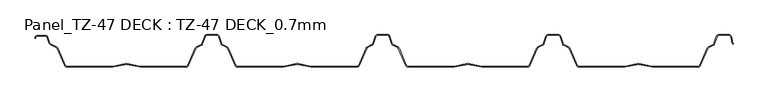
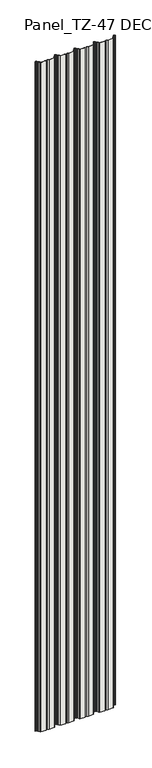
"""IFC4 building model written with IfcOpenShell, lengths in millimetres: roof geometry, Panel_TZ-47 DECK : TZ-47 DECK_0.7mm."""

from ifc_helpers import new_model, si_unit, point, frame_2d, origin, origin_with_axes, place, context, project, spatial, polyline, circle_curve, trimmed, segment, composite_curve, outline, extrude, source, transform, mapped, element, save


def panel_tz_47_deck_tz_47_deck_0_7mm_e5fd2b05(model_context):
    return source(origin(), model_context, "Body", "SweptSolid", [
        extrude(outline(composite_curve([segment(trimmed(circle_curve(frame_2d((462.6918032, -44.0)), 2.5), [point((462.6918032, -46.5))], [point((464.9851088, -44.9953639))], True, "CARTESIAN"), True, "CONTINUOUS"), segment(polyline([(464.9851088, -44.9953639), (475.884379, -19.8835868)]), True, "CONTINUOUS"), segment(trimmed(circle_curve(frame_2d((478.6363458, -21.0780235)), 3.0), [point((475.884379, -19.8835868))], [point((477.2893244, -18.397439))], False, "CARTESIAN"), True, "CONTINUOUS"), segment(polyline([(477.2893244, -18.397439), (484.4894233, -14.779315)]), True, "CONTINUOUS"), segment(trimmed(circle_curve(frame_2d((483.5914091, -12.9922586)), 2.0), [point((484.4894233, -14.779315))], [point((485.4900407, -13.6209063))], True, "CARTESIAN"), True, "CONTINUOUS"), segment(polyline([(485.4900407, -13.6209063), (489.2053906, -2.3998665)]), True, "CONTINUOUS"), segment(trimmed(circle_curve(frame_2d((492.5279959, -3.5)), 3.5), [point((489.2053906, -2.3998665))], [point((492.5279959, 0.0))], False, "CARTESIAN"), True, "CONTINUOUS"), segment(polyline([(492.5279959, 0.0), (507.4720041, 0.0)]), True, "CONTINUOUS"), segment(trimmed(circle_curve(frame_2d((507.4720041, -3.5)), 3.5), [point((507.4720041, 0.0))], [point((510.7946094, -2.3998665))], False, "CARTESIAN"), True, "CONTINUOUS"), segment(polyline([(510.7946094, -2.3998665), (512.5145908, -7.5945265)]), True, "CONTINUOUS"), segment(trimmed(circle_curve(frame_2d((510.6159592, -8.2231742)), 2.0), [point((512.5145908, -7.5945265))], [point((512.4038697, -9.1194865))], False, "CARTESIAN"), True, "CONTINUOUS"), segment(trimmed(circle_curve(frame_2d((513.3061161, -9.5655913)), 1.0065078), [point((512.4038697, -9.1194865))], [point((512.3506223, -9.8819608))], True, "CARTESIAN"), True, "CONTINUOUS"), segment(polyline([(512.3506223, -9.8819608), (513.5268409, -13.4343573), (512.7673883, -13.6858163), (511.5911697, -10.1334198)]), True, "CONTINUOUS"), segment(trimmed(circle_curve(frame_2d((513.3061161, -9.5655913)), 1.8065078), [point((511.5911697, -10.1334198))], [point((511.6879803, -8.7624057))], False, "CARTESIAN"), True, "CONTINUOUS"), segment(trimmed(circle_curve(frame_2d((510.6159592, -8.2231742)), 1.2), [point((511.6879803, -8.7624057))], [point((511.7551381, -7.8459856))], True, "CARTESIAN"), True, "CONTINUOUS"), segment(polyline([(511.7551381, -7.8459856), (510.0351568, -2.6513256)]), True, "CONTINUOUS"), segment(trimmed(circle_curve(frame_2d((507.4720041, -3.5)), 2.7), [point((510.0351568, -2.6513256))], [point((507.4720041, -0.8))], True, "CARTESIAN"), True, "CONTINUOUS"), segment(polyline([(507.4720041, -0.8), (492.5279959, -0.8)]), True, "CONTINUOUS"), segment(trimmed(circle_curve(frame_2d((492.5279959, -3.5)), 2.7), [point((492.5279959, -0.8))], [point((489.9648432, -2.6513256))], True, "CARTESIAN"), True, "CONTINUOUS"), segment(polyline([(489.9648432, -2.6513256), (486.2494933, -13.8723654)]), True, "CONTINUOUS"), segment(trimmed(circle_curve(frame_2d((483.5914091, -12.9922586)), 2.8), [point((486.2494933, -13.8723654))], [point((484.848629, -15.4941375))], False, "CARTESIAN"), True, "CONTINUOUS"), segment(polyline([(484.848629, -15.4941375), (477.6485301, -19.1122615)]), True, "CONTINUOUS"), segment(trimmed(circle_curve(frame_2d((478.6363458, -21.0780235)), 2.2), [point((477.6485301, -19.1122615))], [point((476.6182368, -20.2021032))], True, "CARTESIAN"), True, "CONTINUOUS"), segment(polyline([(476.6182368, -20.2021032), (465.7189666, -45.3138804)]), True, "CONTINUOUS"), segment(trimmed(circle_curve(frame_2d((462.6918032, -44.0)), 3.3), [point((465.7189666, -45.3138804))], [point((462.6918032, -47.3))], False, "CARTESIAN"), True, "CONTINUOUS"), segment(polyline([(462.6918032, -47.3), (394.9702941, -47.3), (375.4314555, -43.3922323)]), True, "CONTINUOUS"), segment(trimmed(circle_curve(frame_2d((375.0, -45.5495098)), 2.2), [point((375.4314555, -43.3922323))], [point((374.5685445, -43.3922323))], True, "CARTESIAN"), True, "CONTINUOUS"), segment(polyline([(374.5685445, -43.3922323), (355.0297059, -47.3), (287.3081968, -47.3)]), True, "CONTINUOUS"), segment(trimmed(circle_curve(frame_2d((287.3081968, -44.0)), 3.3), [point((287.3081968, -47.3))], [point((284.2810334, -45.3138804))], False, "CARTESIAN"), True, "CONTINUOUS"), segment(polyline([(284.2810334, -45.3138804), (273.3817632, -20.2021032)]), True, "CONTINUOUS"), segment(trimmed(circle_curve(frame_2d((271.3636542, -21.0780235)), 2.2), [point((273.3817632, -20.2021032))], [point((272.3514699, -19.1122615))], True, "CARTESIAN"), True, "CONTINUOUS"), segment(polyline([(272.3514699, -19.1122615), (265.151371, -15.4941375)]), True, "CONTINUOUS"), segment(trimmed(circle_curve(frame_2d((266.4085909, -12.9922586)), 2.8), [point((265.151371, -15.4941375))], [point((263.7505067, -13.8723654))], False, "CARTESIAN"), True, "CONTINUOUS"), segment(polyline([(263.7505067, -13.8723654), (260.0351568, -2.6513256)]), True, "CONTINUOUS"), segment(trimmed(circle_curve(frame_2d((257.4720041, -3.5)), 2.7), [point((260.0351568, -2.6513256))], [point((257.4720041, -0.8))], True, "CARTESIAN"), True, "CONTINUOUS"), segment(polyline([(257.4720041, -0.8), (242.5279959, -0.8)]), True, "CONTINUOUS"), segment(trimmed(circle_curve(frame_2d((242.5279959, -3.5)), 2.7), [point((242.5279959, -0.8))], [point((239.9648432, -2.6513256))], True, "CARTESIAN"), True, "CONTINUOUS"), segment(polyline([(239.9648432, -2.6513256), (236.2494933, -13.8723654)]), True, "CONTINUOUS"), segment(trimmed(circle_curve(frame_2d((233.5914091, -12.9922586)), 2.8), [point((236.2494933, -13.8723654))], [point((234.848629, -15.4941375))], False, "CARTESIAN"), True, "CONTINUOUS"), segment(polyline([(234.848629, -15.4941375), (227.6485301, -19.1122615)]), True, "CONTINUOUS"), segment(trimmed(circle_curve(frame_2d((228.6363458, -21.0780235)), 2.2), [point((227.6485301, -19.1122615))], [point((226.6182368, -20.2021032))], True, "CARTESIAN"), True, "CONTINUOUS"), segment(polyline([(226.6182368, -20.2021032), (215.7189666, -45.3138804)]), True, "CONTINUOUS"), segment(trimmed(circle_curve(frame_2d((212.6918032, -44.0)), 3.3), [point((215.7189666, -45.3138804))], [point((212.6918032, -47.3))], False, "CARTESIAN"), True, "CONTINUOUS"), segment(polyline([(212.6918032, -47.3), (144.9702941, -47.3), (125.4314555, -43.3922323)]), True, "CONTINUOUS"), segment(trimmed(circle_curve(frame_2d((125.0, -45.5495098)), 2.2), [point((125.4314555, -43.3922323))], [point((124.5685445, -43.3922323))], True, "CARTESIAN"), True, "CONTINUOUS"), segment(polyline([(124.5685445, -43.3922323), (105.0297059, -47.3), (37.3081968, -47.3)]), True, "CONTINUOUS"), segment(trimmed(circle_curve(frame_2d((37.3081968, -44.0)), 3.3), [point((37.3081968, -47.3))], [point((34.2810334, -45.3138804))], False, "CARTESIAN"), True, "CONTINUOUS"), segment(polyline([(34.2810334, -45.3138804), (23.3817632, -20.2021032)]), True, "CONTINUOUS"), segment(trimmed(circle_curve(frame_2d((21.3636542, -21.0780235)), 2.2), [point((23.3817632, -20.2021032))], [point((22.3514699, -19.1122615))], True, "CARTESIAN"), True, "CONTINUOUS"), segment(polyline([(22.3514699, -19.1122615), (15.151371, -15.4941375)]), True, "CONTINUOUS"), segment(trimmed(circle_curve(frame_2d((16.4085909, -12.9922586)), 2.8), [point((15.151371, -15.4941375))], [point((13.7505067, -13.8723654))], False, "CARTESIAN"), True, "CONTINUOUS"), segment(polyline([(13.7505067, -13.8723654), (10.0351568, -2.6513256)]), True, "CONTINUOUS"), segment(trimmed(circle_curve(frame_2d((7.4720041, -3.5)), 2.7), [point((10.0351568, -2.6513256))], [point((7.4720041, -0.8))], True, "CARTESIAN"), True, "CONTINUOUS"), segment(polyline([(7.4720041, -0.8), (-7.4720041, -0.8)]), True, "CONTINUOUS"), segment(trimmed(circle_curve(frame_2d((-7.4720041, -3.5)), 2.7), [point((-7.4720041, -0.8))], [point((-10.0351568, -2.6513256))], True, "CARTESIAN"), True, "CONTINUOUS"), segment(polyline([(-10.0351568, -2.6513256), (-13.7505067, -13.8723654)]), True, "CONTINUOUS"), segment(trimmed(circle_curve(frame_2d((-16.4085909, -12.9922586)), 2.8), [point((-13.7505067, -13.8723654))], [point((-15.151371, -15.4941375))], False, "CARTESIAN"), True, "CONTINUOUS"), segment(polyline([(-15.151371, -15.4941375), (-22.3514699, -19.1122615)]), True, "CONTINUOUS"), segment(trimmed(circle_curve(frame_2d((-21.3636542, -21.0780235)), 2.2), [point((-22.3514699, -19.1122615))], [point((-23.3817632, -20.2021032))], True, "CARTESIAN"), True, "CONTINUOUS"), segment(polyline([(-23.3817632, -20.2021032), (-34.2810334, -45.3138804)]), True, "CONTINUOUS"), segment(trimmed(circle_curve(frame_2d((-37.3081968, -44.0)), 3.3), [point((-34.2810334, -45.3138804))], [point((-37.3081968, -47.3))], False, "CARTESIAN"), True, "CONTINUOUS"), segment(polyline([(-37.3081968, -47.3), (-105.0297059, -47.3), (-124.5685445, -43.3922323)]), True, "CONTINUOUS"), segment(trimmed(circle_curve(frame_2d((-125.0, -45.5495098)), 2.2), [point((-124.5685445, -43.3922323))], [point((-125.4314555, -43.3922323))], True, "CARTESIAN"), True, "CONTINUOUS"), segment(polyline([(-125.4314555, -43.3922323), (-144.9702941, -47.3), (-212.6918032, -47.3)]), True, "CONTINUOUS"), segment(trimmed(circle_curve(frame_2d((-212.6918032, -44.0)), 3.3), [point((-212.6918032, -47.3))], [point((-215.7189666, -45.3138804))], False, "CARTESIAN"), True, "CONTINUOUS"), segment(polyline([(-215.7189666, -45.3138804), (-226.6182368, -20.2021032)]), True, "CONTINUOUS"), segment(trimmed(circle_curve(frame_2d((-228.6363458, -21.0780235)), 2.2), [point((-226.6182368, -20.2021032))], [point((-227.6485301, -19.1122615))], True, "CARTESIAN"), True, "CONTINUOUS"), segment(polyline([(-227.6485301, -19.1122615), (-234.848629, -15.4941375)]), True, "CONTINUOUS"), segment(trimmed(circle_curve(frame_2d((-233.5914091, -12.9922586)), 2.8), [point((-234.848629, -15.4941375))], [point((-236.2494933, -13.8723654))], False, "CARTESIAN"), True, "CONTINUOUS"), segment(polyline([(-236.2494933, -13.8723654), (-239.9648432, -2.6513256)]), True, "CONTINUOUS"), segment(trimmed(circle_curve(frame_2d((-242.5279959, -3.5)), 2.7), [point((-239.9648432, -2.6513256))], [point((-242.5279959, -0.8))], True, "CARTESIAN"), True, "CONTINUOUS"), segment(polyline([(-242.5279959, -0.8), (-257.4720041, -0.8)]), True, "CONTINUOUS"), segment(trimmed(circle_curve(frame_2d((-257.4720041, -3.5)), 2.7), [point((-257.4720041, -0.8))], [point((-260.0351568, -2.6513256))], True, "CARTESIAN"), True, "CONTINUOUS"), segment(polyline([(-260.0351568, -2.6513256), (-263.7505067, -13.8723654)]), True, "CONTINUOUS"), segment(trimmed(circle_curve(frame_2d((-266.4085909, -12.9922586)), 2.8), [point((-263.7505067, -13.8723654))], [point((-265.151371, -15.4941375))], False, "CARTESIAN"), True, "CONTINUOUS"), segment(polyline([(-265.151371, -15.4941375), (-272.3514699, -19.1122615)]), True, "CONTINUOUS"), segment(trimmed(circle_curve(frame_2d((-271.3636542, -21.0780235)), 2.2), [point((-272.3514699, -19.1122615))], [point((-273.3817632, -20.2021032))], True, "CARTESIAN"), True, "CONTINUOUS"), segment(polyline([(-273.3817632, -20.2021032), (-284.2810334, -45.3138804)]), True, "CONTINUOUS"), segment(trimmed(circle_curve(frame_2d((-287.3081968, -44.0)), 3.3), [point((-284.2810334, -45.3138804))], [point((-287.3081968, -47.3))], False, "CARTESIAN"), True, "CONTINUOUS"), segment(polyline([(-287.3081968, -47.3), (-355.0297059, -47.3), (-374.5685445, -43.3922323)]), True, "CONTINUOUS"), segment(trimmed(circle_curve(frame_2d((-375.0, -45.5495098)), 2.2), [point((-374.5685445, -43.3922323))], [point((-375.4314555, -43.3922323))], True, "CARTESIAN"), True, "CONTINUOUS"), segment(polyline([(-375.4314555, -43.3922323), (-394.9702941, -47.3), (-462.6918032, -47.3)]), True, "CONTINUOUS"), segment(trimmed(circle_curve(frame_2d((-462.6918032, -44.0)), 3.3), [point((-462.6918032, -47.3))], [point((-465.7189666, -45.3138804))], False, "CARTESIAN"), True, "CONTINUOUS"), segment(polyline([(-465.7189666, -45.3138804), (-476.6182368, -20.2021032)]), True, "CONTINUOUS"), segment(trimmed(circle_curve(frame_2d((-478.6363458, -21.0780235)), 2.2), [point((-476.6182368, -20.2021032))], [point((-477.6485301, -19.1122615))], True, "CARTESIAN"), True, "CONTINUOUS"), segment(polyline([(-477.6485301, -19.1122615), (-486.6480187, -14.5899257)]), True, "CONTINUOUS"), segment(trimmed(circle_curve(frame_2d((-485.3907987, -12.0880468)), 2.8), [point((-486.6480187, -14.5899257))], [point((-488.048883, -12.9681535))], False, "CARTESIAN"), True, "CONTINUOUS"), segment(polyline([(-488.048883, -12.9681535), (-490.9681847, -4.1513256)]), True, "CONTINUOUS"), segment(trimmed(circle_curve(frame_2d((-493.5313374, -5.0)), 2.7), [point((-490.9681847, -4.1513256))], [point((-493.5313374, -2.3))], True, "CARTESIAN"), True, "CONTINUOUS"), segment(polyline([(-493.5313374, -2.3), (-506.2431725, -2.3)]), True, "CONTINUOUS"), segment(trimmed(circle_curve(frame_2d((-506.2431725, -4.0)), 1.7), [point((-506.2431725, -2.3))], [point((-507.8570094, -3.4656495))], True, "CARTESIAN"), True, "CONTINUOUS"), segment(polyline([(-507.8570094, -3.4656495), (-508.4856571, -5.3642811), (-509.2451097, -5.112822), (-508.616462, -3.2141904)]), True, "CONTINUOUS"), segment(trimmed(circle_curve(frame_2d((-506.2431725, -4.0)), 2.5), [point((-508.616462, -3.2141904))], [point((-506.2431725, -1.5))], False, "CARTESIAN"), True, "CONTINUOUS"), segment(polyline([(-506.2431725, -1.5), (-493.5313374, -1.5)]), True, "CONTINUOUS"), segment(trimmed(circle_curve(frame_2d((-493.5313374, -5.0)), 3.5), [point((-493.5313374, -1.5))], [point((-490.2087321, -3.8998665))], False, "CARTESIAN"), True, "CONTINUOUS"), segment(polyline([(-490.2087321, -3.8998665), (-487.2894304, -12.7166945)]), True, "CONTINUOUS"), segment(trimmed(circle_curve(frame_2d((-485.3907987, -12.0880468)), 2.0), [point((-487.2894304, -12.7166945))], [point((-486.288813, -13.8751031))], True, "CARTESIAN"), True, "CONTINUOUS"), segment(polyline([(-486.288813, -13.8751031), (-477.2893244, -18.397439)]), True, "CONTINUOUS"), segment(trimmed(circle_curve(frame_2d((-478.6363458, -21.0780235)), 3.0), [point((-477.2893244, -18.397439))], [point((-475.884379, -19.8835868))], False, "CARTESIAN"), True, "CONTINUOUS"), segment(polyline([(-475.884379, -19.8835868), (-464.9851088, -44.9953639)]), True, "CONTINUOUS"), segment(trimmed(circle_curve(frame_2d((-462.6918032, -44.0)), 2.5), [point((-464.9851088, -44.9953639))], [point((-462.6918032, -46.5))], True, "CARTESIAN"), True, "CONTINUOUS"), segment(polyline([(-462.6918032, -46.5), (-395.0495098, -46.5), (-375.5883484, -42.6077677)]), True, "CONTINUOUS"), segment(trimmed(circle_curve(frame_2d((-375.0, -45.5495098)), 3.0), [point((-375.5883484, -42.6077677))], [point((-374.4116516, -42.6077677))], False, "CARTESIAN"), True, "CONTINUOUS"), segment(polyline([(-374.4116516, -42.6077677), (-354.9504902, -46.5), (-287.3081968, -46.5)]), True, "CONTINUOUS"), segment(trimmed(circle_curve(frame_2d((-287.3081968, -44.0)), 2.5), [point((-287.3081968, -46.5))], [point((-285.0148912, -44.9953639))], True, "CARTESIAN"), True, "CONTINUOUS"), segment(polyline([(-285.0148912, -44.9953639), (-274.115621, -19.8835868)]), True, "CONTINUOUS"), segment(trimmed(circle_curve(frame_2d((-271.3636542, -21.0780235)), 3.0), [point((-274.115621, -19.8835868))], [point((-272.7106756, -18.397439))], False, "CARTESIAN"), True, "CONTINUOUS"), segment(polyline([(-272.7106756, -18.397439), (-265.5105767, -14.779315)]), True, "CONTINUOUS"), segment(trimmed(circle_curve(frame_2d((-266.4085909, -12.9922586)), 2.0), [point((-265.5105767, -14.779315))], [point((-264.5099593, -13.6209063))], True, "CARTESIAN"), True, "CONTINUOUS"), segment(polyline([(-264.5099593, -13.6209063), (-260.7946094, -2.3998665)]), True, "CONTINUOUS"), segment(trimmed(circle_curve(frame_2d((-257.4720041, -3.5)), 3.5), [point((-260.7946094, -2.3998665))], [point((-257.4720041, 0.0))], False, "CARTESIAN"), True, "CONTINUOUS"), segment(polyline([(-257.4720041, 0.0), (-242.5279959, 0.0)]), True, "CONTINUOUS"), segment(trimmed(circle_curve(frame_2d((-242.5279959, -3.5)), 3.5), [point((-242.5279959, 0.0))], [point((-239.2053906, -2.3998665))], False, "CARTESIAN"), True, "CONTINUOUS"), segment(polyline([(-239.2053906, -2.3998665), (-235.4900407, -13.6209063)]), True, "CONTINUOUS"), segment(trimmed(circle_curve(frame_2d((-233.5914091, -12.9922586)), 2.0), [point((-235.4900407, -13.6209063))], [point((-234.4894233, -14.779315))], True, "CARTESIAN"), True, "CONTINUOUS"), segment(polyline([(-234.4894233, -14.779315), (-227.2893244, -18.397439)]), True, "CONTINUOUS"), segment(trimmed(circle_curve(frame_2d((-228.6363458, -21.0780235)), 3.0), [point((-227.2893244, -18.397439))], [point((-225.884379, -19.8835868))], False, "CARTESIAN"), True, "CONTINUOUS"), segment(polyline([(-225.884379, -19.8835868), (-214.9851088, -44.9953639)]), True, "CONTINUOUS"), segment(trimmed(circle_curve(frame_2d((-212.6918032, -44.0)), 2.5), [point((-214.9851088, -44.9953639))], [point((-212.6918032, -46.5))], True, "CARTESIAN"), True, "CONTINUOUS"), segment(polyline([(-212.6918032, -46.5), (-145.0495098, -46.5), (-125.5883484, -42.6077677)]), True, "CONTINUOUS"), segment(trimmed(circle_curve(frame_2d((-125.0, -45.5495098)), 3.0), [point((-125.5883484, -42.6077677))], [point((-124.4116516, -42.6077677))], False, "CARTESIAN"), True, "CONTINUOUS"), segment(polyline([(-124.4116516, -42.6077677), (-104.9504902, -46.5), (-37.3081968, -46.5)]), True, "CONTINUOUS"), segment(trimmed(circle_curve(frame_2d((-37.3081968, -44.0)), 2.5), [point((-37.3081968, -46.5))], [point((-35.0148912, -44.9953639))], True, "CARTESIAN"), True, "CONTINUOUS"), segment(polyline([(-35.0148912, -44.9953639), (-24.115621, -19.8835868)]), True, "CONTINUOUS"), segment(trimmed(circle_curve(frame_2d((-21.3636542, -21.0780235)), 3.0), [point((-24.115621, -19.8835868))], [point((-22.7106756, -18.397439))], False, "CARTESIAN"), True, "CONTINUOUS"), segment(polyline([(-22.7106756, -18.397439), (-15.5105767, -14.779315)]), True, "CONTINUOUS"), segment(trimmed(circle_curve(frame_2d((-16.4085909, -12.9922586)), 2.0), [point((-15.5105767, -14.779315))], [point((-14.5099593, -13.6209063))], True, "CARTESIAN"), True, "CONTINUOUS"), segment(polyline([(-14.5099593, -13.6209063), (-10.7946094, -2.3998665)]), True, "CONTINUOUS"), segment(trimmed(circle_curve(frame_2d((-7.4720041, -3.5)), 3.5), [point((-10.7946094, -2.3998665))], [point((-7.4720041, 0.0))], False, "CARTESIAN"), True, "CONTINUOUS"), segment(polyline([(-7.4720041, 0.0), (7.4720041, 0.0)]), True, "CONTINUOUS"), segment(trimmed(circle_curve(frame_2d((7.4720041, -3.5)), 3.5), [point((7.4720041, 0.0))], [point((10.7946094, -2.3998665))], False, "CARTESIAN"), True, "CONTINUOUS"), segment(polyline([(10.7946094, -2.3998665), (14.5099593, -13.6209063)]), True, "CONTINUOUS"), segment(trimmed(circle_curve(frame_2d((16.4085909, -12.9922586)), 2.0), [point((14.5099593, -13.6209063))], [point((15.5105767, -14.779315))], True, "CARTESIAN"), True, "CONTINUOUS"), segment(polyline([(15.5105767, -14.779315), (22.7106756, -18.397439)]), True, "CONTINUOUS"), segment(trimmed(circle_curve(frame_2d((21.3636542, -21.0780235)), 3.0), [point((22.7106756, -18.397439))], [point((24.115621, -19.8835868))], False, "CARTESIAN"), True, "CONTINUOUS"), segment(polyline([(24.115621, -19.8835868), (35.0148912, -44.9953639)]), True, "CONTINUOUS"), segment(trimmed(circle_curve(frame_2d((37.3081968, -44.0)), 2.5), [point((35.0148912, -44.9953639))], [point((37.3081968, -46.5))], True, "CARTESIAN"), True, "CONTINUOUS"), segment(polyline([(37.3081968, -46.5), (104.9504902, -46.5), (124.4116516, -42.6077677)]), True, "CONTINUOUS"), segment(trimmed(circle_curve(frame_2d((125.0, -45.5495098)), 3.0), [point((124.4116516, -42.6077677))], [point((125.5883484, -42.6077677))], False, "CARTESIAN"), True, "CONTINUOUS"), segment(polyline([(125.5883484, -42.6077677), (145.0495098, -46.5), (212.6918032, -46.5)]), True, "CONTINUOUS"), segment(trimmed(circle_curve(frame_2d((212.6918032, -44.0)), 2.5), [point((212.6918032, -46.5))], [point((214.9851088, -44.9953639))], True, "CARTESIAN"), True, "CONTINUOUS"), segment(polyline([(214.9851088, -44.9953639), (225.884379, -19.8835868)]), True, "CONTINUOUS"), segment(trimmed(circle_curve(frame_2d((228.6363458, -21.0780235)), 3.0), [point((225.884379, -19.8835868))], [point((227.2893244, -18.397439))], False, "CARTESIAN"), True, "CONTINUOUS"), segment(polyline([(227.2893244, -18.397439), (234.4894233, -14.779315)]), True, "CONTINUOUS"), segment(trimmed(circle_curve(frame_2d((233.5914091, -12.9922586)), 2.0), [point((234.4894233, -14.779315))], [point((235.4900407, -13.6209063))], True, "CARTESIAN"), True, "CONTINUOUS"), segment(polyline([(235.4900407, -13.6209063), (239.2053906, -2.3998665)]), True, "CONTINUOUS"), segment(trimmed(circle_curve(frame_2d((242.5279959, -3.5)), 3.5), [point((239.2053906, -2.3998665))], [point((242.5279959, 0.0))], False, "CARTESIAN"), True, "CONTINUOUS"), segment(polyline([(242.5279959, 0.0), (257.4720041, 0.0)]), True, "CONTINUOUS"), segment(trimmed(circle_curve(frame_2d((257.4720041, -3.5)), 3.5), [point((257.4720041, 0.0))], [point((260.7946094, -2.3998665))], False, "CARTESIAN"), True, "CONTINUOUS"), segment(polyline([(260.7946094, -2.3998665), (264.5099593, -13.6209063)]), True, "CONTINUOUS"), segment(trimmed(circle_curve(frame_2d((266.4085909, -12.9922586)), 2.0), [point((264.5099593, -13.6209063))], [point((265.5105767, -14.779315))], True, "CARTESIAN"), True, "CONTINUOUS"), segment(polyline([(265.5105767, -14.779315), (272.7106756, -18.397439)]), True, "CONTINUOUS"), segment(trimmed(circle_curve(frame_2d((271.3636542, -21.0780235)), 3.0), [point((272.7106756, -18.397439))], [point((274.115621, -19.8835868))], False, "CARTESIAN"), True, "CONTINUOUS"), segment(polyline([(274.115621, -19.8835868), (285.0148912, -44.9953639)]), True, "CONTINUOUS"), segment(trimmed(circle_curve(frame_2d((287.3081968, -44.0)), 2.5), [point((285.0148912, -44.9953639))], [point((287.3081968, -46.5))], True, "CARTESIAN"), True, "CONTINUOUS"), segment(polyline([(287.3081968, -46.5), (354.9504902, -46.5), (374.4116516, -42.6077677)]), True, "CONTINUOUS"), segment(trimmed(circle_curve(frame_2d((375.0, -45.5495098)), 3.0), [point((374.4116516, -42.6077677))], [point((375.5883484, -42.6077677))], False, "CARTESIAN"), True, "CONTINUOUS"), segment(polyline([(375.5883484, -42.6077677), (395.0495098, -46.5), (462.6918032, -46.5)]), True, "CONTINUOUS")], self_intersect=False)), origin_with_axes(), (0.0, 0.0, 1.0), 9000.0),
    ])


if __name__ == "__main__":
    model = new_model("IFC4")
    model_context = context("Model", 3, world=origin())
    ifc_project = project(units=[si_unit("LENGTHUNIT", "METRE", prefix="MILLI")], contexts=[model_context])
    site = spatial("IfcSite", under=ifc_project)
    building = spatial("IfcBuilding", under=site)
    placement = place(None, origin())
    panel_tz_47_deck_tz_47_deck_0_7mm_shape = panel_tz_47_deck_tz_47_deck_0_7mm_e5fd2b05(model_context)
    element("IfcRoof", 1, ObjectType="Panel_TZ-47 DECK : TZ-47 DECK_0.7mm", at=placement, inside=building, context=model_context, shape_type="MappedRepresentation", body=[
        mapped(panel_tz_47_deck_tz_47_deck_0_7mm_shape, transform((0.0, 0.0, 0.0), x_axis=(1.0, 0.0, 0.0), y_axis=(0.0, 1.0, 0.0), z_axis=(0.0, 0.0, 1.0))),
    ])
    save(model, "model.ifc")
